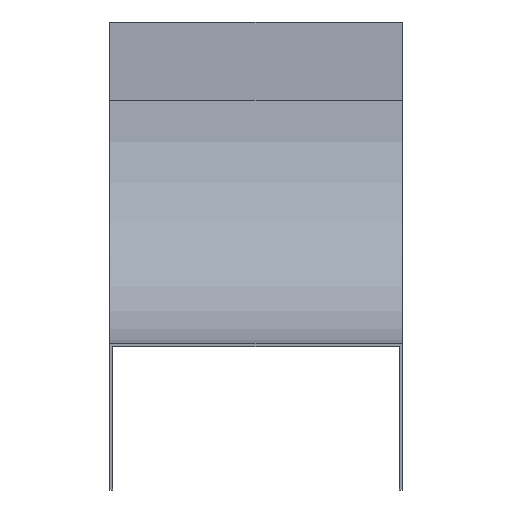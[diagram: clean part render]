
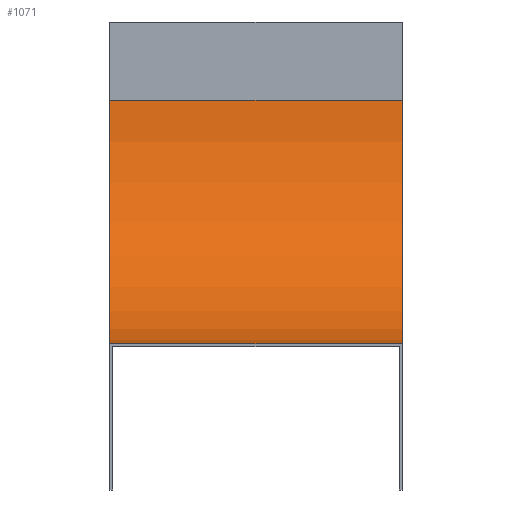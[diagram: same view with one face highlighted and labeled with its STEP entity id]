
A CAD part, front view. The second image highlights one B-rep face of the part: STEP entity #1071.
In plain terms, the highlighted cylindrical face has radius 125 mm (diameter 250 mm), a partial arc.
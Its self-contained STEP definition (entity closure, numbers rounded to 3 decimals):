
#53 = DIRECTION ( 'NONE',  ( -1., 0., 0. ) ) ;
#62 = AXIS2_PLACEMENT_3D ( 'NONE', #446, #53, #1449 ) ;
#98 = VERTEX_POINT ( 'NONE', #1260 ) ;
#182 = EDGE_CURVE ( 'NONE', #98, #576, #1471, .T. ) ;
#209 = DIRECTION ( 'NONE',  ( -1., 0., 0. ) ) ;
#338 = VERTEX_POINT ( 'NONE', #1236 ) ;
#404 = EDGE_CURVE ( 'NONE', #576, #1633, #1313, .T. ) ;
#446 = CARTESIAN_POINT ( 'NONE',  ( 75., -125., -40. ) ) ;
#500 = EDGE_LOOP ( 'NONE', ( #1211, #1611, #1289, #1143 ) ) ;
#570 = EDGE_CURVE ( 'NONE', #338, #1633, #1395, .T. ) ;
#576 = VERTEX_POINT ( 'NONE', #1075 ) ;
#657 = CYLINDRICAL_SURFACE ( 'NONE', #901, 125. ) ;
#740 = LINE ( 'NONE', #882, #786 ) ;
#786 = VECTOR ( 'NONE', #209, 1000. ) ;
#882 = CARTESIAN_POINT ( 'NONE',  ( 75., 0., -40. ) ) ;
#886 = AXIS2_PLACEMENT_3D ( 'NONE', #952, #1460, #1090 ) ;
#901 = AXIS2_PLACEMENT_3D ( 'NONE', #1541, #1174, #1570 ) ;
#952 = CARTESIAN_POINT ( 'NONE',  ( -75., -125., -40. ) ) ;
#1060 = EDGE_CURVE ( 'NONE', #98, #338, #740, .T. ) ;
#1071 = ADVANCED_FACE ( 'NONE', ( #1557 ), #657, .F. ) ;
#1075 = CARTESIAN_POINT ( 'NONE',  ( 75., -125., -165. ) ) ;
#1090 = DIRECTION ( 'NONE',  ( 0., 0., 1. ) ) ;
#1143 = ORIENTED_EDGE ( 'NONE', *, *, #1060, .T. ) ;
#1174 = DIRECTION ( 'NONE',  ( -1., 0., 0. ) ) ;
#1176 = DIRECTION ( 'NONE',  ( -1., 0., 0. ) ) ;
#1211 = ORIENTED_EDGE ( 'NONE', *, *, #570, .T. ) ;
#1236 = CARTESIAN_POINT ( 'NONE',  ( -75., 0., -40. ) ) ;
#1260 = CARTESIAN_POINT ( 'NONE',  ( 75., 0., -40. ) ) ;
#1289 = ORIENTED_EDGE ( 'NONE', *, *, #182, .F. ) ;
#1291 = VECTOR ( 'NONE', #1176, 1000. ) ;
#1313 = LINE ( 'NONE', #1436, #1291 ) ;
#1395 = CIRCLE ( 'NONE', #886, 125. ) ;
#1436 = CARTESIAN_POINT ( 'NONE',  ( 75., -125., -165. ) ) ;
#1449 = DIRECTION ( 'NONE',  ( 0., 0., 1. ) ) ;
#1460 = DIRECTION ( 'NONE',  ( -1., 0., 0. ) ) ;
#1471 = CIRCLE ( 'NONE', #62, 125. ) ;
#1496 = CARTESIAN_POINT ( 'NONE',  ( -75., -125., -165. ) ) ;
#1541 = CARTESIAN_POINT ( 'NONE',  ( 75., -125., -40. ) ) ;
#1557 = FACE_OUTER_BOUND ( 'NONE', #500, .T. ) ;
#1570 = DIRECTION ( 'NONE',  ( 0., 0., 1. ) ) ;
#1611 = ORIENTED_EDGE ( 'NONE', *, *, #404, .F. ) ;
#1633 = VERTEX_POINT ( 'NONE', #1496 ) ;
